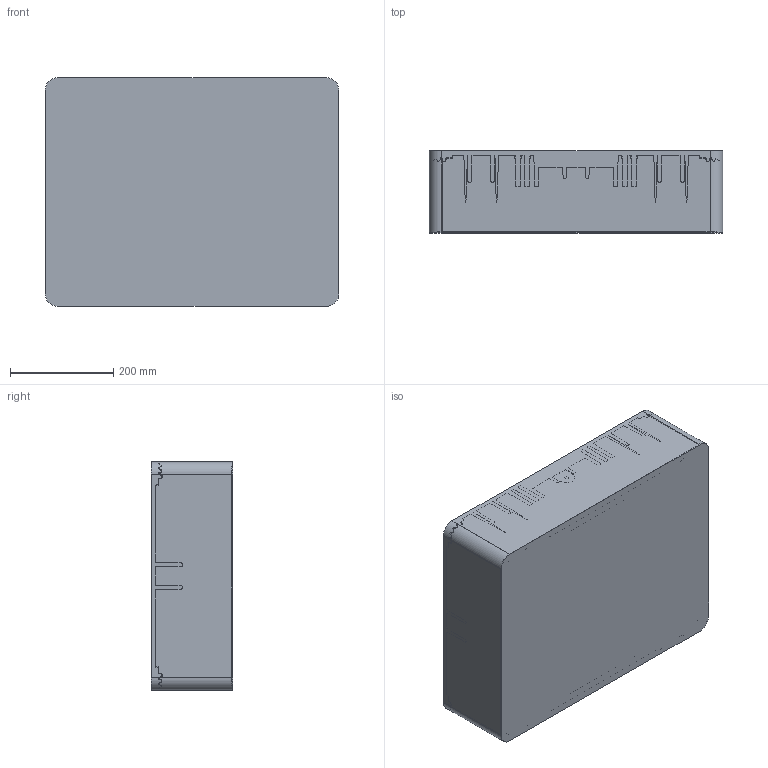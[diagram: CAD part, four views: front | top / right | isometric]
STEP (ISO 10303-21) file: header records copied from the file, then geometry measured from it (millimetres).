
FILE_DESCRIPTION (( 'STEP AP214' ), '1' );
FILE_NAME ('1600 Peli case Bottom.STEP', '2016-01-12T18:36:02', ( '' ), ( '' ), 'SwSTEP 2.0', 'SolidWorks 2014', '' );
FILE_SCHEMA (( 'AUTOMOTIVE_DESIGN' ));
Length unit declared in the file: inch
Products named in the file (1): 1600 Peli case Bottom
Bounding box: 569.11 x 158.75 x 443 mm (x, y, z)
Volume: 2746997.6 mm3; surface area: 1663815.2 mm2
Topology: 1 solids, 1 shells, 612 faces, 1578 edges, 970 vertices
Faces by surface type: cylinder 229, bspline 162, plane 146, sphere 60, torus 14, cone 1
Entity records: 25293 total; most frequent: CARTESIAN_POINT 12520, ORIENTED_EDGE 3120, DIRECTION 2169, EDGE_CURVE 1560, VERTEX_POINT 970, AXIS2_PLACEMENT_3D 830, EDGE_LOOP 634, FACE_OUTER_BOUND 612
